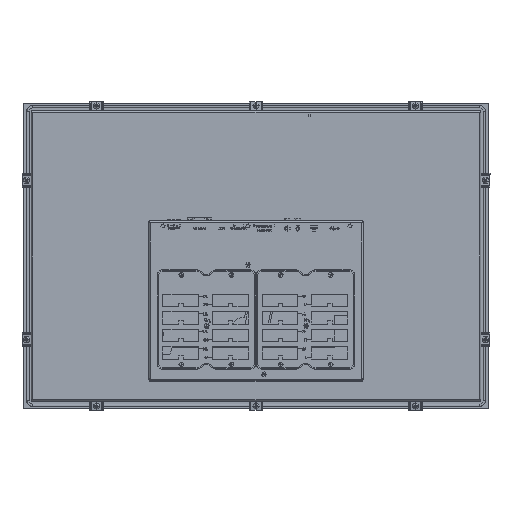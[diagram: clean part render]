
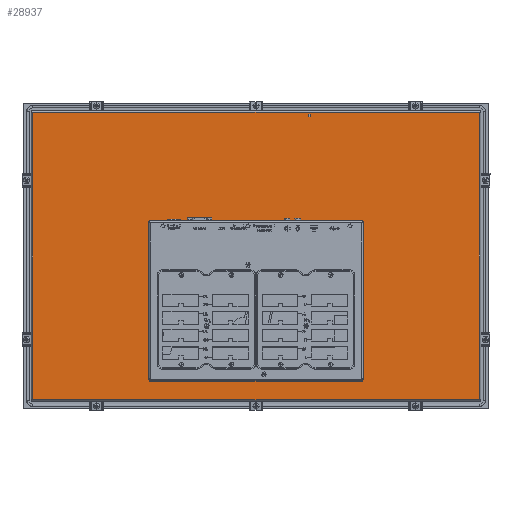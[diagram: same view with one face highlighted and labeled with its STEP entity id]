
A CAD part, front view. The second image highlights one B-rep face of the part: STEP entity #28937.
In plain terms, the highlighted planar face has unit normal (0, -1, 0).
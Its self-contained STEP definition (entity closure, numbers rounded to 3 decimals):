
#962 = CARTESIAN_POINT ( 'NONE',  ( -133.25, -11.3, 50.102 ) ) ;
#1319 = EDGE_LOOP ( 'NONE', ( #6305, #38470, #33877, #58551, #75754, #15726, #44340, #201415 ) ) ;
#3122 = CARTESIAN_POINT ( 'NONE',  ( 0., -11.3, -175.598 ) ) ;
#4275 = DIRECTION ( 'NONE',  ( 1., 0., 0. ) ) ;
#6059 = FACE_OUTER_BOUND ( 'NONE', #1319, .T. ) ;
#6305 = ORIENTED_EDGE ( 'NONE', *, *, #76257, .T. ) ;
#11319 = ORIENTED_EDGE ( 'NONE', *, *, #139696, .T. ) ;
#11429 = EDGE_CURVE ( 'NONE', #155032, #221853, #45966, .T. ) ;
#12511 = CARTESIAN_POINT ( 'NONE',  ( 89.2, -11.3, 94.152 ) ) ;
#14497 = VECTOR ( 'NONE', #222536, 1000. ) ;
#15650 = VERTEX_POINT ( 'NONE', #117484 ) ;
#15726 = ORIENTED_EDGE ( 'NONE', *, *, #163820, .T. ) ;
#16124 = LINE ( 'NONE', #54499, #217416 ) ;
#17980 = VECTOR ( 'NONE', #210779, 1000. ) ;
#21186 = LINE ( 'NONE', #92175, #117687 ) ;
#22379 = PLANE ( 'NONE',  #217425 ) ;
#22429 = CARTESIAN_POINT ( 'NONE',  ( 135.25, -11.3, 48.102 ) ) ;
#24668 = LINE ( 'NONE', #201610, #14497 ) ;
#24765 = EDGE_CURVE ( 'NONE', #82859, #26120, #184000, .T. ) ;
#25916 = CARTESIAN_POINT ( 'NONE',  ( 280., -11.3, 4.952 ) ) ;
#26120 = VERTEX_POINT ( 'NONE', #182817 ) ;
#28937 = ADVANCED_FACE ( 'NONE', ( #6059, #73571 ), #22379, .F. ) ;
#32025 = VECTOR ( 'NONE', #176827, 1000. ) ;
#33877 = ORIENTED_EDGE ( 'NONE', *, *, #128815, .T. ) ;
#34135 = DIRECTION ( 'NONE',  ( 1., 0., 0. ) ) ;
#36718 = ORIENTED_EDGE ( 'NONE', *, *, #189140, .T. ) ;
#38470 = ORIENTED_EDGE ( 'NONE', *, *, #60547, .T. ) ;
#39590 = VECTOR ( 'NONE', #188475, 1000. ) ;
#44340 = ORIENTED_EDGE ( 'NONE', *, *, #117103, .T. ) ;
#45383 = LINE ( 'NONE', #187351, #39590 ) ;
#45966 = LINE ( 'NONE', #139009, #167609 ) ;
#48539 = EDGE_CURVE ( 'NONE', #15650, #133355, #207016, .T. ) ;
#48935 = LINE ( 'NONE', #119920, #32025 ) ;
#49816 = VECTOR ( 'NONE', #170888, 1000. ) ;
#52501 = VECTOR ( 'NONE', #116091, 1000. ) ;
#54242 = EDGE_CURVE ( 'NONE', #82064, #15650, #83858, .T. ) ;
#54499 = CARTESIAN_POINT ( 'NONE',  ( 0., -11.3, 185.502 ) ) ;
#55138 = VECTOR ( 'NONE', #187127, 1000. ) ;
#55139 = ORIENTED_EDGE ( 'NONE', *, *, #48539, .T. ) ;
#57355 = CARTESIAN_POINT ( 'NONE',  ( 0., -11.3, 4.952 ) ) ;
#58551 = ORIENTED_EDGE ( 'NONE', *, *, #91906, .T. ) ;
#59409 = EDGE_LOOP ( 'NONE', ( #36718, #195943, #189011, #11319, #169280, #55139, #182294, #131439 ) ) ;
#60547 = EDGE_CURVE ( 'NONE', #66524, #63066, #185360, .T. ) ;
#62175 = CARTESIAN_POINT ( 'NONE',  ( 280., -11.3, -175.598 ) ) ;
#62520 = LINE ( 'NONE', #225462, #52501 ) ;
#63037 = DIRECTION ( 'NONE',  ( -0.707, 0., -0.707 ) ) ;
#63066 = VERTEX_POINT ( 'NONE', #201856 ) ;
#66524 = VERTEX_POINT ( 'NONE', #62175 ) ;
#70443 = CARTESIAN_POINT ( 'NONE',  ( -280., -11.3, -174.627 ) ) ;
#71778 = CARTESIAN_POINT ( 'NONE',  ( 280., -11.3, 185.502 ) ) ;
#73005 = CARTESIAN_POINT ( 'NONE',  ( 135.25, -11.3, -150.398 ) ) ;
#73571 = FACE_BOUND ( 'NONE', #59409, .T. ) ;
#74125 = VECTOR ( 'NONE', #156061, 1000. ) ;
#75754 = ORIENTED_EDGE ( 'NONE', *, *, #199100, .T. ) ;
#76175 = VERTEX_POINT ( 'NONE', #71778 ) ;
#76257 = EDGE_CURVE ( 'NONE', #26120, #66524, #162542, .T. ) ;
#79483 = VERTEX_POINT ( 'NONE', #95489 ) ;
#82064 = VERTEX_POINT ( 'NONE', #166652 ) ;
#82859 = VERTEX_POINT ( 'NONE', #70443 ) ;
#83857 = CARTESIAN_POINT ( 'NONE',  ( -280., -11.3, 4.952 ) ) ;
#83858 = LINE ( 'NONE', #102566, #17980 ) ;
#84429 = CARTESIAN_POINT ( 'NONE',  ( 280., -11.3, 184.531 ) ) ;
#85353 = VERTEX_POINT ( 'NONE', #84429 ) ;
#88222 = DIRECTION ( 'NONE',  ( -1., 0., 0. ) ) ;
#89784 = VERTEX_POINT ( 'NONE', #147596 ) ;
#90396 = VECTOR ( 'NONE', #4275, 1000. ) ;
#91906 = EDGE_CURVE ( 'NONE', #85353, #76175, #62520, .T. ) ;
#92175 = CARTESIAN_POINT ( 'NONE',  ( -135.25, -11.3, -152.398 ) ) ;
#95489 = CARTESIAN_POINT ( 'NONE',  ( 133.25, -11.3, 50.102 ) ) ;
#96756 = EDGE_CURVE ( 'NONE', #133355, #160628, #21186, .T. ) ;
#96902 = DIRECTION ( 'NONE',  ( 0., 0., 1. ) ) ;
#102566 = CARTESIAN_POINT ( 'NONE',  ( -135.25, -11.3, -152.398 ) ) ;
#111933 = DIRECTION ( 'NONE',  ( 0., 0., -1. ) ) ;
#114559 = EDGE_CURVE ( 'NONE', #160628, #211136, #45383, .T. ) ;
#114975 = VECTOR ( 'NONE', #96902, 1000. ) ;
#116091 = DIRECTION ( 'NONE',  ( 0., 0., 1. ) ) ;
#117103 = EDGE_CURVE ( 'NONE', #140799, #82859, #118873, .T. ) ;
#117238 = VECTOR ( 'NONE', #34135, 1000. ) ;
#117484 = CARTESIAN_POINT ( 'NONE',  ( -133.25, -11.3, -152.398 ) ) ;
#117687 = VECTOR ( 'NONE', #166580, 1000. ) ;
#118873 = LINE ( 'NONE', #83857, #74125 ) ;
#119920 = CARTESIAN_POINT ( 'NONE',  ( -280., -11.3, 4.952 ) ) ;
#120342 = LINE ( 'NONE', #155220, #117238 ) ;
#123060 = VECTOR ( 'NONE', #63037, 1000. ) ;
#128346 = DIRECTION ( 'NONE',  ( -1., 0., 0. ) ) ;
#128815 = EDGE_CURVE ( 'NONE', #63066, #85353, #24668, .T. ) ;
#131439 = ORIENTED_EDGE ( 'NONE', *, *, #114559, .T. ) ;
#133355 = VERTEX_POINT ( 'NONE', #183801 ) ;
#133593 = LINE ( 'NONE', #12511, #55138 ) ;
#139009 = CARTESIAN_POINT ( 'NONE',  ( 135.25, -11.3, -152.398 ) ) ;
#139696 = EDGE_CURVE ( 'NONE', #221853, #82064, #156882, .T. ) ;
#140799 = VERTEX_POINT ( 'NONE', #187334 ) ;
#147596 = CARTESIAN_POINT ( 'NONE',  ( -280., -11.3, 185.502 ) ) ;
#155032 = VERTEX_POINT ( 'NONE', #22429 ) ;
#155220 = CARTESIAN_POINT ( 'NONE',  ( -135.25, -11.3, 50.102 ) ) ;
#156061 = DIRECTION ( 'NONE',  ( 0., 0., -1. ) ) ;
#156882 = LINE ( 'NONE', #222563, #123060 ) ;
#160628 = VERTEX_POINT ( 'NONE', #215136 ) ;
#162542 = LINE ( 'NONE', #3122, #90396 ) ;
#163820 = EDGE_CURVE ( 'NONE', #89784, #140799, #48935, .T. ) ;
#164337 = DIRECTION ( 'NONE',  ( 0., 1., 0. ) ) ;
#165340 = CARTESIAN_POINT ( 'NONE',  ( -280., -11.3, 4.952 ) ) ;
#166580 = DIRECTION ( 'NONE',  ( 0., 0., 1. ) ) ;
#166652 = CARTESIAN_POINT ( 'NONE',  ( 133.25, -11.3, -152.398 ) ) ;
#167609 = VECTOR ( 'NONE', #192472, 1000. ) ;
#169280 = ORIENTED_EDGE ( 'NONE', *, *, #54242, .T. ) ;
#170888 = DIRECTION ( 'NONE',  ( -0.707, 0., 0.707 ) ) ;
#176827 = DIRECTION ( 'NONE',  ( 0., 0., -1. ) ) ;
#178235 = EDGE_CURVE ( 'NONE', #79483, #155032, #133593, .T. ) ;
#182294 = ORIENTED_EDGE ( 'NONE', *, *, #96756, .T. ) ;
#182817 = CARTESIAN_POINT ( 'NONE',  ( -280., -11.3, -175.598 ) ) ;
#183801 = CARTESIAN_POINT ( 'NONE',  ( -135.25, -11.3, -150.398 ) ) ;
#184000 = LINE ( 'NONE', #165340, #185653 ) ;
#185360 = LINE ( 'NONE', #25916, #114975 ) ;
#185653 = VECTOR ( 'NONE', #111933, 1000. ) ;
#187127 = DIRECTION ( 'NONE',  ( 0.707, 0., -0.707 ) ) ;
#187334 = CARTESIAN_POINT ( 'NONE',  ( -280., -11.3, 184.531 ) ) ;
#187351 = CARTESIAN_POINT ( 'NONE',  ( -89.2, -11.3, 94.152 ) ) ;
#188475 = DIRECTION ( 'NONE',  ( 0.707, 0., 0.707 ) ) ;
#189011 = ORIENTED_EDGE ( 'NONE', *, *, #11429, .T. ) ;
#189140 = EDGE_CURVE ( 'NONE', #211136, #79483, #120342, .T. ) ;
#192472 = DIRECTION ( 'NONE',  ( 0., 0., -1. ) ) ;
#195943 = ORIENTED_EDGE ( 'NONE', *, *, #178235, .T. ) ;
#199100 = EDGE_CURVE ( 'NONE', #76175, #89784, #16124, .T. ) ;
#201415 = ORIENTED_EDGE ( 'NONE', *, *, #24765, .T. ) ;
#201610 = CARTESIAN_POINT ( 'NONE',  ( 280., -11.3, 4.952 ) ) ;
#201856 = CARTESIAN_POINT ( 'NONE',  ( 280., -11.3, -174.627 ) ) ;
#205897 = CARTESIAN_POINT ( 'NONE',  ( -145.3, -11.3, -140.348 ) ) ;
#207016 = LINE ( 'NONE', #205897, #49816 ) ;
#210779 = DIRECTION ( 'NONE',  ( -1., 0., 0. ) ) ;
#211136 = VERTEX_POINT ( 'NONE', #962 ) ;
#215136 = CARTESIAN_POINT ( 'NONE',  ( -135.25, -11.3, 48.102 ) ) ;
#217416 = VECTOR ( 'NONE', #88222, 1000. ) ;
#217425 = AXIS2_PLACEMENT_3D ( 'NONE', #57355, #164337, #128346 ) ;
#221853 = VERTEX_POINT ( 'NONE', #73005 ) ;
#222536 = DIRECTION ( 'NONE',  ( 0., 0., 1. ) ) ;
#222563 = CARTESIAN_POINT ( 'NONE',  ( 145.3, -11.3, -140.348 ) ) ;
#225462 = CARTESIAN_POINT ( 'NONE',  ( 280., -11.3, 4.952 ) ) ;
